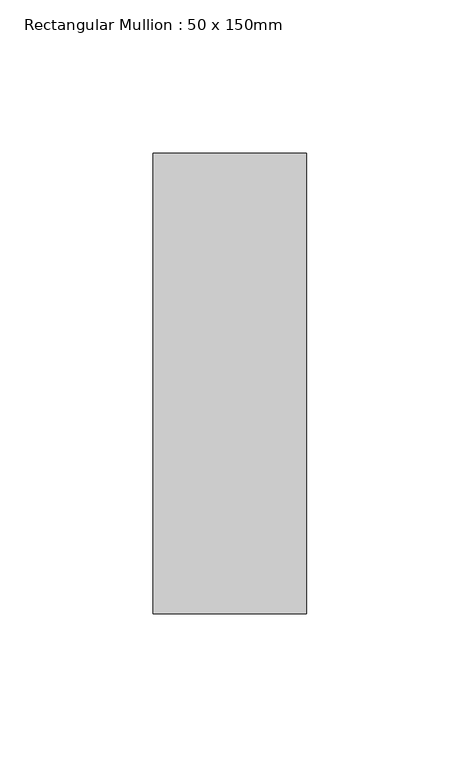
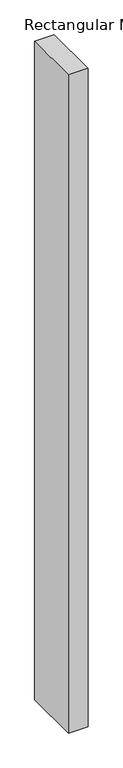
"""IFC4 building model written with IfcOpenShell, lengths in millimetres: member geometry, Rectangular Mullion : 50 x 150mm."""

import ifcopenshell
import ifcopenshell.guid

model = None  # the IFC model being written
_history = None  # IfcOwnerHistory: only IFC2X3 demands one
_inside = {}  # id of a spatial element -> (the spatial element, [elements in it])
_under = {}  # id of a project, library or spatial element -> (it, [spatial elements below it])
_declared = {}  # id of a project -> (the project, [libraries it declares])
_typed = {}  # id of a type object -> (the type object, [elements of that type])
_made_of = {}  # id of a material, layer set ... -> (it, [elements and type objects made of it])


def new_model(schema):
    """Start an empty IFC model of exactly this schema.

    Asked for "IFC4X3", IfcOpenShell would pick the latest addendum, in which some entities
    have other attributes; the version numbers below select the first issue.
    IFC2X3 requires an IfcOwnerHistory on every rooted entity: one is made here for all.
    """
    global model, _history
    if schema == "IFC4X3":
        model = ifcopenshell.file(schema_version=(4, 3, 0, 0))
    else:
        model = ifcopenshell.file(schema=schema)
    _inside.clear()
    _under.clear()
    _declared.clear()
    _typed.clear()
    _made_of.clear()
    _history = None
    if model.schema == "IFC2X3":
        org = make("IfcOrganization", Name="unknown")
        user = make(
            "IfcPersonAndOrganization",
            ThePerson=make("IfcPerson", FamilyName="unknown"),
            TheOrganization=org,
        )
        app = make(
            "IfcApplication",
            ApplicationDeveloper=org,
            Version="unknown",
            ApplicationFullName="unknown",
            ApplicationIdentifier="unknown",
        )
        _history = make(
            "IfcOwnerHistory",
            OwningUser=user,
            OwningApplication=app,
            ChangeAction="ADDED",
            CreationDate=0,
        )
    return model


def make(cls, **values):
    """One entity of the class cls with the attributes given. An attribute that is None is left unset."""
    return model.create_entity(
        cls, **{name: value for name, value in values.items() if value is not None}
    )


def rooted(cls, **values):
    """An entity with a GlobalId (a new one), such as an element, a storey or a relation."""
    return make(cls, GlobalId=ifcopenshell.guid.new(), OwnerHistory=_history, **values)


def si_unit(unit_type, name, prefix=None):
    """IfcSIUnit, for example si_unit("LENGTHUNIT", "METRE", prefix="MILLI")."""
    return make("IfcSIUnit", UnitType=unit_type, Prefix=prefix, Name=name)


def assignment(units):
    """IfcUnitAssignment: the units of a project."""
    return None if units is None else make("IfcUnitAssignment", Units=units)


def point(xyz):
    """IfcCartesianPoint."""
    return None if xyz is None else make("IfcCartesianPoint", Coordinates=xyz)


def direction(xyz):
    """IfcDirection."""
    return None if xyz is None else make("IfcDirection", DirectionRatios=xyz)


def frame(location, z_axis=None, x_axis=None):
    """IfcAxis2Placement3D, a coordinate frame: its origin and axes. An axis left out is left unset."""
    return make(
        "IfcAxis2Placement3D",
        Location=point(location),
        Axis=direction(z_axis),
        RefDirection=direction(x_axis),
    )


def origin():
    """The frame at (0, 0, 0) with its axes left unset."""
    return frame((0.0, 0.0, 0.0))


def place(relative_to, where):
    """IfcLocalPlacement: puts the frame where relative to a parent placement (None: the world)."""
    return make(
        "IfcLocalPlacement", PlacementRelTo=relative_to, RelativePlacement=where
    )


def context(
    kind, dimensions, precision=None, world=None, true_north=None, identifier=None
):
    """IfcGeometricRepresentationContext, for example the 3D "Model" context."""
    return make(
        "IfcGeometricRepresentationContext",
        ContextIdentifier=identifier,
        ContextType=kind,
        CoordinateSpaceDimension=dimensions,
        Precision=precision,
        WorldCoordinateSystem=world,
        TrueNorth=true_north,
    )


def project(units=None, contexts=None):
    """IfcProject with its units and contexts."""
    return rooted(
        "IfcProject",
        Name="project",
        RepresentationContexts=contexts,
        UnitsInContext=assignment(units),
    )


def spatial(cls, under=None, at=None, **own):
    """A site, building, storey or space (cls), placed at a placement, below another one or the project."""
    s = rooted(cls, ObjectPlacement=at, **own)
    if under is not None:
        _under.setdefault(under.id(), (under, []))[1].append(s)
    return s


def polyline(points):
    """IfcPolyline through the points."""
    return make("IfcPolyline", Points=[point(p) for p in points])


def outline(outer, holes=None, kind="AREA"):
    """IfcArbitraryClosedProfileDef: a profile drawn as a closed curve; with holes, ...WithVoids."""
    if holes is None:
        return make("IfcArbitraryClosedProfileDef", ProfileType=kind, OuterCurve=outer)
    return make(
        "IfcArbitraryProfileDefWithVoids",
        ProfileType=kind,
        OuterCurve=outer,
        InnerCurves=holes,
    )


def extrude(swept, where, along, depth):
    """IfcExtrudedAreaSolid: the profile swept, set in the frame where, extruded along a direction by depth."""
    return make(
        "IfcExtrudedAreaSolid",
        SweptArea=swept,
        Position=where,
        ExtrudedDirection=direction(along),
        Depth=depth,
    )


def shape(context_of_items, identifier, shape_type, items):
    """IfcShapeRepresentation: the items that make up one representation, for example the "Body"."""
    return make(
        "IfcShapeRepresentation",
        ContextOfItems=context_of_items,
        RepresentationIdentifier=identifier,
        RepresentationType=shape_type,
        Items=items,
    )


def source(mapping_origin, context_of_items, identifier, shape_type, items):
    """IfcRepresentationMap: a shape defined once, which mapped items show again and again."""
    return make(
        "IfcRepresentationMap",
        MappingOrigin=mapping_origin,
        MappedRepresentation=shape(context_of_items, identifier, shape_type, items),
    )


def transform(
    local_origin,
    x_axis=None,
    y_axis=None,
    z_axis=None,
    scale=None,
    scale2=None,
    scale3=None,
    uniform=True,
):
    """IfcCartesianTransformationOperator3D, or its non-uniform kind. x_axis, y_axis, z_axis: its Axis1, 2, 3."""
    if uniform:
        return make(
            "IfcCartesianTransformationOperator3D",
            Axis1=direction(x_axis),
            Axis2=direction(y_axis),
            LocalOrigin=point(local_origin),
            Scale=scale,
            Axis3=direction(z_axis),
        )
    return make(
        "IfcCartesianTransformationOperator3DnonUniform",
        Axis1=direction(x_axis),
        Axis2=direction(y_axis),
        LocalOrigin=point(local_origin),
        Scale=scale,
        Axis3=direction(z_axis),
        Scale2=scale2,
        Scale3=scale3,
    )


def mapped(mapping_source, mapping_target):
    """IfcMappedItem: shows the shape of a source again, moved by a transform."""
    return make(
        "IfcMappedItem", MappingSource=mapping_source, MappingTarget=mapping_target
    )


def made_of(thing, what):
    """Note that an element or type object is made of a material, layer set ...; save() writes the relation."""
    if what is not None:
        _made_of.setdefault(what.id(), (what, []))[1].append(thing)
    return thing


def element(
    cls,
    number,
    at=None,
    inside=None,
    cuts=None,
    type_object=None,
    material=None,
    context=None,
    identifier="Body",
    shape_type=None,
    held_by="IfcProductDefinitionShape",
    body=None,
    shapes=None,
    **own,
):
    """One element of the class cls, such as IfcWall. Its Tag is "e" and its number.

    at: its placement. inside: the storey or other place that contains it. cuts: it is an
    opening in that element (IfcRelVoidsElement). A single representation is given by context,
    identifier, shape_type and body (its items); several are given by shapes. held_by: the class
    of the entity that holds the representations. save() writes the other relations.
    """
    e = rooted(cls, Tag="e%d" % number, ObjectPlacement=at, **own)
    if body is not None:
        shapes = [shape(context, identifier, shape_type, body)]
    if shapes is not None:
        e.Representation = make(held_by, Representations=shapes)
    if inside is not None:
        _inside.setdefault(inside.id(), (inside, []))[1].append(e)
    if cuts is not None:
        rooted(
            "IfcRelVoidsElement", RelatingBuildingElement=cuts, RelatedOpeningElement=e
        )
    if type_object is not None:
        _typed.setdefault(type_object.id(), (type_object, []))[1].append(e)
    return made_of(e, material)


def aggregate(whole, parts):
    """IfcRelAggregates: a whole, such as a stair, and the parts it consists of."""
    return rooted("IfcRelAggregates", RelatingObject=whole, RelatedObjects=parts)


def save(model, path):
    """Write the relations noted so far, then the file.

    IfcRelAggregates (storeys below a building ...), IfcRelContainedInSpatialStructure (elements
    in a storey), IfcRelDefinesByType, IfcRelAssociatesMaterial and IfcRelDeclares: one each for
    every whole, place, type object, material and project.
    """
    for whole, parts in _under.values():
        aggregate(whole, parts)
    for where, things in _inside.values():
        rooted(
            "IfcRelContainedInSpatialStructure",
            RelatedElements=things,
            RelatingStructure=where,
        )
    for kind, things in _typed.values():
        rooted("IfcRelDefinesByType", RelatedObjects=things, RelatingType=kind)
    for what, things in _made_of.values():
        rooted("IfcRelAssociatesMaterial", RelatedObjects=things, RelatingMaterial=what)
    for by, libraries in _declared.values():
        rooted("IfcRelDeclares", RelatingContext=by, RelatedDefinitions=libraries)
    model.write(path)


def rectangular_mullion_50_x_150mm_3844b6de(model_context):
    return source(origin(), model_context, "Body", "SweptSolid", [
        extrude(outline(polyline([(0.0, 75.0), (0.0, -75.0), (-50.0, -75.0), (-50.0, 75.0), (0.0, 75.0)])), frame((0.0, 0.0, -1782.1364975), z_axis=(0.0, 0.0, 1.0), x_axis=(1.0, 0.0, 0.0)), (0.0, 0.0, 1.0), 1782.1364975),
    ])


if __name__ == "__main__":
    model = new_model("IFC4")
    model_context = context("Model", 3, world=origin())
    ifc_project = project(units=[si_unit("LENGTHUNIT", "METRE", prefix="MILLI")], contexts=[model_context])
    site = spatial("IfcSite", under=ifc_project)
    building = spatial("IfcBuilding", under=site)
    placement = place(None, origin())
    rectangular_mullion_50_x_150mm_shape = rectangular_mullion_50_x_150mm_3844b6de(model_context)
    element("IfcMember", 1, ObjectType="Rectangular Mullion : 50 x 150mm", at=placement, inside=building, context=model_context, shape_type="MappedRepresentation", body=[
        mapped(rectangular_mullion_50_x_150mm_shape, transform((0.0, 0.0, 0.0), x_axis=(1.0, 0.0, 0.0), y_axis=(0.0, 1.0, 0.0), z_axis=(0.0, 0.0, 1.0))),
    ])
    save(model, "model.ifc")
